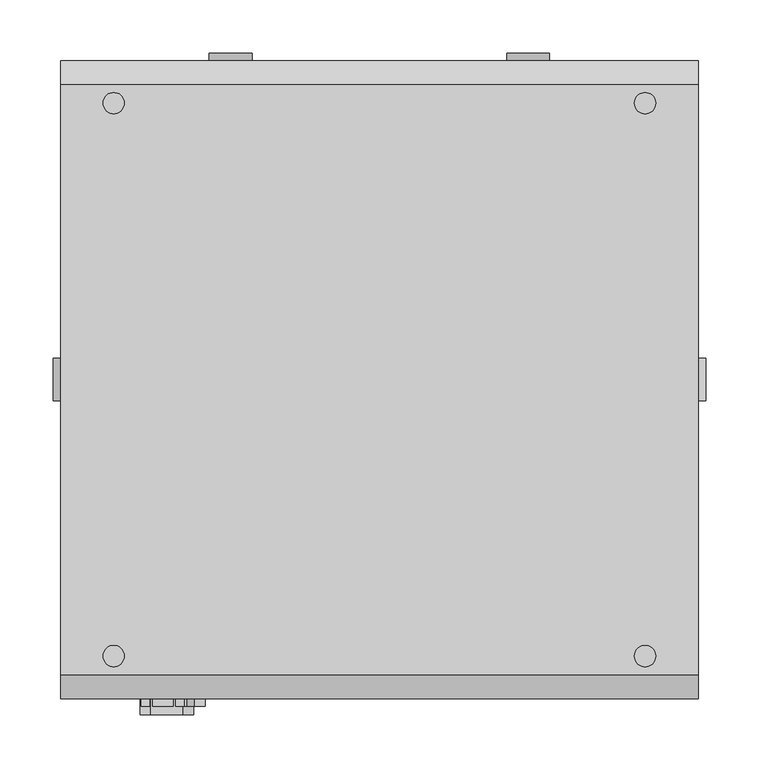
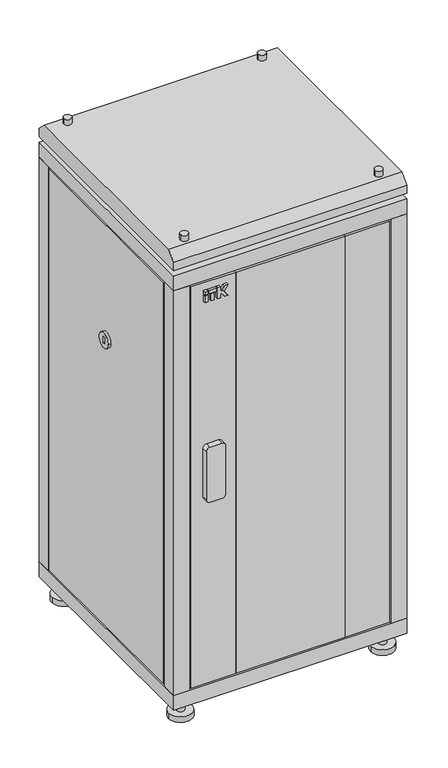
"""IFC4 building model written with IfcOpenShell, lengths in millimetres: proxy geometry, Шкафы ITK серия N_05 : LN05-24U66-G."""

from ifc_helpers import new_model, si_unit, point, frame, frame_2d, origin, origin_with_axes, place, context, project, spatial, polyline, circle_curve, trimmed, segment, composite_curve, outline, extrude, faceted_brep, source, transform, mapped, element, save
from ifc_brep_helpers import plane_surface, cylinder_surface, advanced_brep


def electrical_fixtures_b4728678(model_context):
    return source(origin(), model_context, "Body", "SolidModel", [
        extrude(outline(polyline([(-215.9746193, -307.0), (-224.197592, -307.0), (-224.197592, -300.0), (-215.9746193, -300.0), (-215.9746193, -307.0)])), frame((0.0, 0.0, 1135.0), z_axis=(0.0, 0.0, 1.0), x_axis=(1.0, 0.0, 0.0)), (0.0, 0.0, 1.0), 18.8087618),
        extrude(outline(polyline([(-199.9605777, -307.0), (-207.7053315, -307.0), (-207.7053315, -300.0), (-199.9605777, -300.0), (-199.9605777, -307.0)])), frame((0.0, 0.0, 1135.0), z_axis=(0.0, 0.0, 1.0), x_axis=(1.0, 0.0, 0.0)), (0.0, 0.0, 1.0), 18.8087618),
        extrude(outline(polyline([(-215.9746193, -307.0), (-224.197592, -307.0), (-224.197592, -300.0), (-215.9746193, -300.0), (-215.9746193, -307.0)])), frame((0.0, 0.0, 1156.4305892), z_axis=(0.0, 0.0, 1.0), x_axis=(1.0, 0.0, 0.0)), (0.0, 0.0, 1.0), 7.9794747),
        extrude(outline(polyline([(1135.0, -191.5184175), (1135.0, -183.7669278), (1146.0271455, -183.7669278), (1146.0271455, -180.8031229), (1135.0, -173.6420108), (1135.0, -164.197592), (1149.7278745, -174.8980192), (1164.410064, -164.197592), (1164.410064, -173.6420108), (1153.3829184, -180.8031229), (1153.3829184, -183.7669278), (1164.410064, -183.7669278), (1164.410064, -191.5184175), (1135.0, -191.5184175)])), frame((0.0, -307.0, 0.0), z_axis=(0.0, 1.0, 0.0), x_axis=(0.0, 0.0, 1.0)), (0.0, 0.0, 1.0), 7.0),
        extrude(outline(polyline([(-194.0851324, -307.0), (-213.5807768, -307.0), (-213.5807768, -300.0), (-194.0851324, -300.0), (-194.0851324, -307.0)])), frame((0.0, 0.0, 1156.4305892), z_axis=(0.0, 0.0, 1.0), x_axis=(1.0, 0.0, 0.0)), (0.0, 0.0, 1.0), 7.9794747),
        extrude(outline(composite_curve([segment(polyline([(745.0, -185.0), (745.0, -215.0)]), True, "CONTINUOUS"), segment(trimmed(circle_curve(frame_2d((735.0, -215.0)), 10.0), [point((745.0, -215.0))], [point((735.0, -225.0))], False, "CARTESIAN"), True, "CONTINUOUS"), segment(polyline([(735.0, -225.0), (605.0, -225.0)]), True, "CONTINUOUS"), segment(trimmed(circle_curve(frame_2d((605.0, -215.0)), 10.0), [point((605.0, -225.0))], [point((595.0, -215.0))], False, "CARTESIAN"), True, "CONTINUOUS"), segment(polyline([(595.0, -215.0), (595.0, -185.0)]), True, "CONTINUOUS"), segment(trimmed(circle_curve(frame_2d((605.0, -185.0)), 10.0), [point((595.0, -185.0))], [point((605.0, -175.0))], False, "CARTESIAN"), True, "CONTINUOUS"), segment(polyline([(605.0, -175.0), (735.0, -175.0)]), True, "CONTINUOUS"), segment(trimmed(circle_curve(frame_2d((735.0, -185.0)), 10.0), [point((735.0, -175.0))], [point((745.0, -185.0))], False, "CARTESIAN"), True, "CONTINUOUS")], self_intersect=False)), frame((0.0, -315.0, 0.0), z_axis=(0.0, 1.0, 0.0), x_axis=(0.0, 0.0, 1.0)), (0.0, 0.0, 1.0), 15.0),
        extrude(outline(polyline([(140.0, -280.0), (140.0, -300.0), (-140.0, -300.0), (-140.0, -280.0), (140.0, -280.0)])), frame((0.0, 0.0, 95.0), z_axis=(0.0, 0.0, 1.0), x_axis=(1.0, 0.0, 0.0)), (0.0, 0.0, 1.0), 1090.0),
        extrude(outline(polyline([(255.0, -280.0), (255.0, -300.0), (140.0, -300.0), (140.0, -280.0), (235.0, -280.0), (235.0, -265.0), (245.0, -265.0), (245.0, -280.0), (255.0, -280.0)])), frame((0.0, 0.0, 95.0), z_axis=(0.0, 0.0, 1.0), x_axis=(1.0, 0.0, 0.0)), (0.0, 0.0, 1.0), 1090.0),
        extrude(outline(polyline([(-140.0, -300.0), (-255.0, -300.0), (-255.0, -280.0), (-245.0, -280.0), (-245.0, -265.0), (-235.0, -265.0), (-235.0, -280.0), (-140.0, -280.0), (-140.0, -300.0)])), frame((0.0, 0.0, 95.0), z_axis=(0.0, 0.0, 1.0), x_axis=(1.0, 0.0, 0.0)), (0.0, 0.0, 1.0), 1090.0),
        extrude(outline(composite_curve([segment(trimmed(circle_curve(frame_2d((-260.0, 260.0)), 10.0), [point((-250.0, 260.0))], [point((-270.0, 260.0))], False, "CARTESIAN"), True, "CONTINUOUS"), segment(trimmed(circle_curve(frame_2d((-260.0, 260.0)), 10.0), [point((-270.0, 260.0))], [point((-250.0, 260.0))], False, "CARTESIAN"), True, "CONTINUOUS")], self_intersect=False)), frame((0.0, 0.0, 15.0), z_axis=(0.0, 0.0, 1.0), x_axis=(1.0, 0.0, 0.0)), (0.0, 0.0, 1.0), 35.0),
        extrude(outline(composite_curve([segment(trimmed(circle_curve(frame_2d((260.0, 260.0)), 10.0), [point((270.0, 260.0))], [point((250.0, 260.0))], False, "CARTESIAN"), True, "CONTINUOUS"), segment(trimmed(circle_curve(frame_2d((260.0, 260.0)), 10.0), [point((250.0, 260.0))], [point((270.0, 260.0))], False, "CARTESIAN"), True, "CONTINUOUS")], self_intersect=False)), frame((0.0, 0.0, 15.0), z_axis=(0.0, 0.0, 1.0), x_axis=(1.0, 0.0, 0.0)), (0.0, 0.0, 1.0), 35.0),
        extrude(outline(composite_curve([segment(trimmed(circle_curve(frame_2d((-260.0, -260.0)), 10.0), [point((-250.0, -260.0))], [point((-270.0, -260.0))], False, "CARTESIAN"), True, "CONTINUOUS"), segment(trimmed(circle_curve(frame_2d((-260.0, -260.0)), 10.0), [point((-270.0, -260.0))], [point((-250.0, -260.0))], False, "CARTESIAN"), True, "CONTINUOUS")], self_intersect=False)), frame((0.0, 0.0, 15.0), z_axis=(0.0, 0.0, 1.0), x_axis=(1.0, 0.0, 0.0)), (0.0, 0.0, 1.0), 35.0),
        extrude(outline(composite_curve([segment(trimmed(circle_curve(frame_2d((260.0, -260.0)), 10.0), [point((270.0, -260.0))], [point((250.0, -260.0))], False, "CARTESIAN"), True, "CONTINUOUS"), segment(trimmed(circle_curve(frame_2d((260.0, -260.0)), 10.0), [point((250.0, -260.0))], [point((270.0, -260.0))], False, "CARTESIAN"), True, "CONTINUOUS")], self_intersect=False)), frame((0.0, 0.0, 15.0), z_axis=(0.0, 0.0, 1.0), x_axis=(1.0, 0.0, 0.0)), (0.0, 0.0, 1.0), 35.0),
        extrude(outline(composite_curve([segment(trimmed(circle_curve(frame_2d((-260.0, 260.0)), 30.0), [point((-230.0, 260.0))], [point((-290.0, 260.0))], False, "CARTESIAN"), True, "CONTINUOUS"), segment(trimmed(circle_curve(frame_2d((-260.0, 260.0)), 30.0), [point((-290.0, 260.0))], [point((-230.0, 260.0))], False, "CARTESIAN"), True, "CONTINUOUS")], self_intersect=False)), origin_with_axes(), (0.0, 0.0, 1.0), 15.0),
        extrude(outline(composite_curve([segment(trimmed(circle_curve(frame_2d((260.0, 260.0)), 30.0), [point((290.0, 260.0))], [point((230.0, 260.0))], False, "CARTESIAN"), True, "CONTINUOUS"), segment(trimmed(circle_curve(frame_2d((260.0, 260.0)), 30.0), [point((230.0, 260.0))], [point((290.0, 260.0))], False, "CARTESIAN"), True, "CONTINUOUS")], self_intersect=False)), origin_with_axes(), (0.0, 0.0, 1.0), 15.0),
        extrude(outline(composite_curve([segment(trimmed(circle_curve(frame_2d((-260.0, -260.0)), 30.0), [point((-230.0, -260.0))], [point((-290.0, -260.0))], False, "CARTESIAN"), True, "CONTINUOUS"), segment(trimmed(circle_curve(frame_2d((-260.0, -260.0)), 30.0), [point((-290.0, -260.0))], [point((-230.0, -260.0))], False, "CARTESIAN"), True, "CONTINUOUS")], self_intersect=False)), origin_with_axes(), (0.0, 0.0, 1.0), 15.0),
        extrude(outline(composite_curve([segment(trimmed(circle_curve(frame_2d((260.0, -260.0)), 30.0), [point((290.0, -260.0))], [point((230.0, -260.0))], False, "CARTESIAN"), True, "CONTINUOUS"), segment(trimmed(circle_curve(frame_2d((260.0, -260.0)), 30.0), [point((230.0, -260.0))], [point((290.0, -260.0))], False, "CARTESIAN"), True, "CONTINUOUS")], self_intersect=False)), origin_with_axes(), (0.0, 0.0, 1.0), 15.0),
        advanced_brep(
        [(260.0, 260.0, 1305.0), (240.0, 260.0, 1305.0), (260.0, -260.0, 1305.0), (240.0, -260.0, 1305.0), (-240.0, 260.0, 1305.0), (-260.0, 260.0, 1305.0), (-240.0, -260.0, 1305.0), (-260.0, -260.0, 1305.0), (260.0, 260.0, 1230.0), (240.0, 260.0, 1230.0), (260.0, -260.0, 1230.0), (240.0, -260.0, 1230.0), (-240.0, 260.0, 1230.0), (-260.0, 260.0, 1230.0), (-240.0, -260.0, 1230.0), (-260.0, -260.0, 1230.0), (260.0, 260.0, 1290.0), (240.0, 260.0, 1290.0), (240.0, 260.0, 1245.0), (260.0, 260.0, 1245.0), (260.0, -260.0, 1290.0), (240.0, -260.0, 1290.0), (240.0, -260.0, 1245.0), (260.0, -260.0, 1245.0), (-240.0, 260.0, 1290.0), (-260.0, 260.0, 1290.0), (-260.0, 260.0, 1245.0), (-240.0, 260.0, 1245.0), (-240.0, -260.0, 1290.0), (-260.0, -260.0, 1290.0), (-260.0, -260.0, 1245.0), (-240.0, -260.0, 1245.0), (300.0, 277.5, 1290.0), (300.0, -277.5, 1290.0), (300.0, -300.0, 1267.5), (300.0, -300.0, 1245.0), (300.0, 300.0, 1245.0), (300.0, 300.0, 1267.5), (-300.0, 277.5, 1290.0), (-300.0, 300.0, 1267.5), (-300.0, 300.0, 1245.0), (-300.0, -300.0, 1245.0), (-300.0, -300.0, 1267.5), (-300.0, -277.5, 1290.0)],
        [
            (0, 1, circle_curve(frame((250.0, 260.0, 1305.0), z_axis=(0.0, 0.0, 1.0), x_axis=(-1.0, 0.0, 0.0)), 10.0)),
            (1, 0, circle_curve(frame((250.0, 260.0, 1305.0), z_axis=(0.0, 0.0, 1.0), x_axis=(-1.0, 0.0, 0.0)), 10.0)),
            (2, 3, circle_curve(frame((250.0, -260.0, 1305.0), z_axis=(0.0, 0.0, 1.0), x_axis=(-1.0, 0.0, 0.0)), 10.0)),
            (3, 2, circle_curve(frame((250.0, -260.0, 1305.0), z_axis=(0.0, 0.0, 1.0), x_axis=(-1.0, 0.0, 0.0)), 10.0)),
            (4, 5, circle_curve(frame((-250.0, 260.0, 1305.0), z_axis=(0.0, 0.0, 1.0), x_axis=(-1.0, 0.0, 0.0)), 10.0)),
            (5, 4, circle_curve(frame((-250.0, 260.0, 1305.0), z_axis=(0.0, 0.0, 1.0), x_axis=(-1.0, 0.0, 0.0)), 10.0)),
            (6, 7, circle_curve(frame((-250.0, -260.0, 1305.0), z_axis=(0.0, 0.0, 1.0), x_axis=(-1.0, 0.0, 0.0)), 10.0)),
            (7, 6, circle_curve(frame((-250.0, -260.0, 1305.0), z_axis=(0.0, 0.0, 1.0), x_axis=(-1.0, 0.0, 0.0)), 10.0)),
            (8, 9, circle_curve(frame((250.0, 260.0, 1230.0), z_axis=(0.0, 0.0, -1.0), x_axis=(-1.0, 0.0, 0.0)), 10.0)),
            (9, 8, circle_curve(frame((250.0, 260.0, 1230.0), z_axis=(0.0, 0.0, -1.0), x_axis=(-1.0, 0.0, 0.0)), 10.0)),
            (10, 11, circle_curve(frame((250.0, -260.0, 1230.0), z_axis=(0.0, 0.0, -1.0), x_axis=(-1.0, 0.0, 0.0)), 10.0)),
            (11, 10, circle_curve(frame((250.0, -260.0, 1230.0), z_axis=(0.0, 0.0, -1.0), x_axis=(-1.0, 0.0, 0.0)), 10.0)),
            (12, 13, circle_curve(frame((-250.0, 260.0, 1230.0), z_axis=(0.0, 0.0, -1.0), x_axis=(-1.0, 0.0, 0.0)), 10.0)),
            (13, 12, circle_curve(frame((-250.0, 260.0, 1230.0), z_axis=(0.0, 0.0, -1.0), x_axis=(-1.0, 0.0, 0.0)), 10.0)),
            (14, 15, circle_curve(frame((-250.0, -260.0, 1230.0), z_axis=(0.0, 0.0, -1.0), x_axis=(-1.0, 0.0, 0.0)), 10.0)),
            (15, 14, circle_curve(frame((-250.0, -260.0, 1230.0), z_axis=(0.0, 0.0, -1.0), x_axis=(-1.0, 0.0, 0.0)), 10.0)),
            (0, 16),
            (16, 17, circle_curve(frame((250.0, 260.0, 1290.0), z_axis=(0.0, 0.0, 1.0), x_axis=(-1.0, 0.0, 0.0)), 10.0)),
            (17, 1),
            (9, 18),
            (18, 19, circle_curve(frame((250.0, 260.0, 1245.0), z_axis=(0.0, 0.0, -1.0), x_axis=(-1.0, 0.0, 0.0)), 10.0)),
            (19, 8),
            (17, 16, circle_curve(frame((250.0, 260.0, 1290.0), z_axis=(0.0, 0.0, 1.0), x_axis=(-1.0, 0.0, 0.0)), 10.0)),
            (19, 18, circle_curve(frame((250.0, 260.0, 1245.0), z_axis=(0.0, 0.0, -1.0), x_axis=(-1.0, 0.0, 0.0)), 10.0)),
            (2, 20),
            (20, 21, circle_curve(frame((250.0, -260.0, 1290.0), z_axis=(0.0, 0.0, 1.0), x_axis=(-1.0, 0.0, 0.0)), 10.0)),
            (21, 3),
            (11, 22),
            (22, 23, circle_curve(frame((250.0, -260.0, 1245.0), z_axis=(0.0, 0.0, -1.0), x_axis=(-1.0, 0.0, 0.0)), 10.0)),
            (23, 10),
            (21, 20, circle_curve(frame((250.0, -260.0, 1290.0), z_axis=(0.0, 0.0, 1.0), x_axis=(-1.0, 0.0, 0.0)), 10.0)),
            (23, 22, circle_curve(frame((250.0, -260.0, 1245.0), z_axis=(0.0, 0.0, -1.0), x_axis=(-1.0, 0.0, 0.0)), 10.0)),
            (4, 24),
            (24, 25, circle_curve(frame((-250.0, 260.0, 1290.0), z_axis=(0.0, 0.0, 1.0), x_axis=(-1.0, 0.0, 0.0)), 10.0)),
            (25, 5),
            (13, 26),
            (26, 27, circle_curve(frame((-250.0, 260.0, 1245.0), z_axis=(0.0, 0.0, -1.0), x_axis=(-1.0, 0.0, 0.0)), 10.0)),
            (27, 12),
            (25, 24, circle_curve(frame((-250.0, 260.0, 1290.0), z_axis=(0.0, 0.0, 1.0), x_axis=(-1.0, 0.0, 0.0)), 10.0)),
            (27, 26, circle_curve(frame((-250.0, 260.0, 1245.0), z_axis=(0.0, 0.0, -1.0), x_axis=(-1.0, 0.0, 0.0)), 10.0)),
            (6, 28),
            (28, 29, circle_curve(frame((-250.0, -260.0, 1290.0), z_axis=(0.0, 0.0, 1.0), x_axis=(-1.0, 0.0, 0.0)), 10.0)),
            (29, 7),
            (15, 30),
            (30, 31, circle_curve(frame((-250.0, -260.0, 1245.0), z_axis=(0.0, 0.0, -1.0), x_axis=(-1.0, 0.0, 0.0)), 10.0)),
            (31, 14),
            (29, 28, circle_curve(frame((-250.0, -260.0, 1290.0), z_axis=(0.0, 0.0, 1.0), x_axis=(-1.0, 0.0, 0.0)), 10.0)),
            (31, 30, circle_curve(frame((-250.0, -260.0, 1245.0), z_axis=(0.0, 0.0, -1.0), x_axis=(-1.0, 0.0, 0.0)), 10.0)),
            (32, 33),
            (33, 34),
            (34, 35),
            (35, 36),
            (36, 37),
            (37, 32),
            (38, 39),
            (39, 40),
            (40, 41),
            (41, 42),
            (42, 43),
            (43, 38),
            (32, 38),
            (43, 33),
            (42, 34),
            (41, 35),
            (40, 36),
            (39, 37),
        ],
        [
            plane_surface(frame((240.0, 260.0, 1305.0), z_axis=(0.0, 0.0, 1.0), x_axis=(0.0, -1.0, 0.0))),
            plane_surface(frame((240.0, 260.0, 1230.0), z_axis=(0.0, 0.0, -1.0), x_axis=(0.0, 1.0, 0.0))),
            cylinder_surface(frame((250.0, 260.0, 1230.0), z_axis=(0.0, 0.0, 1.0), x_axis=(-1.0, 0.0, 0.0)), 10.0),
            cylinder_surface(frame((250.0, -260.0, 1710.0), z_axis=(0.0, 0.0, 1.0), x_axis=(-1.0, 0.0, 0.0)), 10.0),
            cylinder_surface(frame((-250.0, 260.0, 1710.0), z_axis=(0.0, 0.0, 1.0), x_axis=(-1.0, 0.0, 0.0)), 10.0),
            cylinder_surface(frame((-250.0, -260.0, 1710.0), z_axis=(0.0, 0.0, 1.0), x_axis=(-1.0, 0.0, 0.0)), 10.0),
            plane_surface(frame((300.0, -277.5, 1290.0), z_axis=(1.0, 0.0, 0.0), x_axis=(0.0, -1.0, 0.0))),
            plane_surface(frame((-300.0, -277.5, 1290.0), z_axis=(-1.0, 0.0, 0.0), x_axis=(0.0, 1.0, 0.0))),
            plane_surface(frame((300.0, 277.5, 1290.0), z_axis=(0.0, 0.0, 1.0), x_axis=(-1.0, 0.0, 0.0))),
            plane_surface(frame((300.0, -277.5, 1290.0), z_axis=(0.0, -0.7071067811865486, 0.7071067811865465), x_axis=(-1.0, 0.0, 0.0))),
            plane_surface(frame((300.0, -300.0, 1267.5), z_axis=(0.0, -1.0, 0.0), x_axis=(-1.0, 0.0, 0.0))),
            plane_surface(frame((300.0, -300.0, 1245.0), z_axis=(0.0, 0.0, -1.0), x_axis=(-1.0, 0.0, 0.0))),
            plane_surface(frame((300.0, 300.0, 1245.0), z_axis=(0.0, 1.0, 0.0), x_axis=(-1.0, 0.0, 0.0))),
            plane_surface(frame((300.0, 300.0, 1267.5), z_axis=(0.0, 0.7071067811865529, 0.7071067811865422), x_axis=(-1.0, 0.0, 0.0))),
        ],
        [
            (0, [[1, 2]]),
            (0, [[3, 4]]),
            (0, [[5, 6]]),
            (0, [[7, 8]]),
            (1, [[9, 10]]),
            (1, [[11, 12]]),
            (1, [[13, 14]]),
            (1, [[15, 16]]),
            (2, [[-1, 17, 18, 19]]),
            (2, [[-10, 20, 21, 22]]),
            (2, [[-2, -19, 23, -17]]),
            (2, [[-9, -22, 24, -20]]),
            (3, [[-3, 25, 26, 27]]),
            (3, [[-12, 28, 29, 30]]),
            (3, [[-4, -27, 31, -25]]),
            (3, [[-11, -30, 32, -28]]),
            (4, [[-5, 33, 34, 35]]),
            (4, [[-14, 36, 37, 38]]),
            (4, [[-6, -35, 39, -33]]),
            (4, [[-13, -38, 40, -36]]),
            (5, [[-7, 41, 42, 43]]),
            (5, [[-16, 44, 45, 46]]),
            (5, [[-8, -43, 47, -41]]),
            (5, [[-15, -46, 48, -44]]),
            (6, [[49, 50, 51, 52, 53, 54]]),
            (7, [[55, 56, 57, 58, 59, 60]]),
            (8, [[-49, 61, -60, 62], [-18, -23], [-26, -31], [-34, -39], [-42, -47]]),
            (9, [[-50, -62, -59, 63]]),
            (10, [[-51, -63, -58, 64]]),
            (11, [[-52, -64, -57, 65], [-21, -24], [-29, -32], [-37, -40], [-45, -48]]),
            (12, [[-53, -65, -56, 66]]),
            (13, [[-54, -66, -55, -61]]),
        ],
    ),
        extrude(outline(polyline([(260.0, 260.0), (260.0, 245.0), (290.0, 245.0), (290.0, -245.0), (260.0, -245.0), (260.0, -260.0), (245.0, -260.0), (245.0, -280.0), (-245.0, -280.0), (-245.0, -260.0), (-260.0, -260.0), (-260.0, -245.0), (-290.0, -245.0), (-290.0, 245.0), (-260.0, 245.0), (-260.0, 260.0), (-245.0, 260.0), (-245.0, 290.0), (245.0, 290.0), (245.0, 260.0), (260.0, 260.0)])), frame((0.0, 0.0, 90.0), z_axis=(0.0, 0.0, 1.0), x_axis=(1.0, 0.0, 0.0)), (0.0, 0.0, 1.0), 5.0),
        extrude(outline(polyline([(260.0, 260.0), (260.0, 245.0), (290.0, 245.0), (290.0, -245.0), (260.0, -245.0), (260.0, -260.0), (245.0, -260.0), (245.0, -280.0), (-245.0, -280.0), (-245.0, -260.0), (-260.0, -260.0), (-260.0, -245.0), (-290.0, -245.0), (-290.0, 245.0), (-260.0, 245.0), (-260.0, 260.0), (-245.0, 260.0), (-245.0, 290.0), (245.0, 290.0), (245.0, 260.0), (260.0, 260.0)])), frame((0.0, 0.0, 1185.0), z_axis=(0.0, 0.0, 1.0), x_axis=(1.0, 0.0, 0.0)), (0.0, 0.0, 1.0), 5.0),
        extrude(outline(polyline([(300.0, -300.0), (-300.0, -300.0), (-300.0, 300.0), (300.0, 300.0), (300.0, -300.0)])), frame((0.0, 0.0, 1190.0), z_axis=(0.0, 0.0, 1.0), x_axis=(1.0, 0.0, 0.0)), (0.0, 0.0, 1.0), 40.0),
        extrude(outline(polyline([(300.0, -300.0), (-300.0, -300.0), (-300.0, 300.0), (300.0, 300.0), (300.0, -300.0)])), frame((0.0, 0.0, 50.0), z_axis=(0.0, 0.0, 1.0), x_axis=(1.0, 0.0, 0.0)), (0.0, 0.0, 1.0), 40.0),
        extrude(outline(composite_curve([segment(trimmed(circle_curve(frame_2d((640.0, 140.0)), 20.0), [point((640.0, 160.0))], [point((640.0, 120.0))], False, "CARTESIAN"), True, "CONTINUOUS"), segment(trimmed(circle_curve(frame_2d((640.0, 140.0)), 20.0), [point((640.0, 120.0))], [point((640.0, 160.0))], False, "CARTESIAN"), True, "CONTINUOUS")], self_intersect=False), holes=[polyline([(631.7814397, 137.0), (648.2185603, 137.0), (648.2185603, 143.0), (631.7814397, 143.0), (631.7814397, 137.0)])]), frame((0.0, 300.0, 0.0), z_axis=(0.0, 1.0, 0.0), x_axis=(0.0, 0.0, 1.0)), (0.0, 0.0, 1.0), 7.0),
        extrude(outline(composite_curve([segment(trimmed(circle_curve(frame_2d((640.0, -140.0)), 20.0), [point((640.0, -120.0))], [point((640.0, -160.0))], False, "CARTESIAN"), True, "CONTINUOUS"), segment(trimmed(circle_curve(frame_2d((640.0, -140.0)), 20.0), [point((640.0, -160.0))], [point((640.0, -120.0))], False, "CARTESIAN"), True, "CONTINUOUS")], self_intersect=False), holes=[polyline([(631.7814397, -143.0), (648.2185603, -143.0), (648.2185603, -137.0), (631.7814397, -137.0), (631.7814397, -143.0)])]), frame((0.0, 300.0, 0.0), z_axis=(0.0, 1.0, 0.0), x_axis=(0.0, 0.0, 1.0)), (0.0, 0.0, 1.0), 7.0),
        faceted_brep([(255.0, 300.0, 1185.0), (-255.0, 300.0, 1185.0), (-255.0, 270.0, 1185.0), (-245.0, 270.0, 1185.0), (-245.0, 290.0, 1185.0), (245.0, 290.0, 1185.0), (245.0, 270.0, 1185.0), (255.0, 270.0, 1185.0), (255.0, 300.0, 95.0), (255.0, 270.0, 95.0), (245.0, 270.0, 95.0), (245.0, 290.0, 95.0), (-245.0, 290.0, 95.0), (-245.0, 270.0, 95.0), (-255.0, 270.0, 95.0), (-255.0, 300.0, 95.0), (255.0, 300.0, 1012.5265979), (-255.0, 300.0, 1012.5265979), (175.0, 300.0, 1060.0), (175.0, 300.0, 1140.0), (-175.0, 300.0, 1140.0), (-175.0, 300.0, 1060.0), (-255.0, 300.0, 267.4734021), (255.0, 300.0, 267.4734021), (175.0, 300.0, 220.0), (-175.0, 300.0, 220.0), (-175.0, 300.0, 140.0), (175.0, 300.0, 140.0), (255.0, 300.0, 1007.4734021), (255.0, 300.0, 272.5265979), (-255.0, 300.0, 272.5265979), (-255.0, 300.0, 1007.4734021), (-170.0, 300.0, 215.0), (170.0, 300.0, 215.0), (170.0, 300.0, 145.0), (-170.0, 300.0, 145.0), (-170.0, 300.0, 1065.0), (-170.0, 300.0, 1135.0), (170.0, 300.0, 1135.0), (170.0, 300.0, 1065.0), (-255.0, 293.0, 1012.5265979), (-255.0, 293.0, 1007.4734021), (-255.0, 293.0, 272.5265979), (-255.0, 293.0, 267.4734021), (255.0, 293.0, 267.4734021), (255.0, 293.0, 272.5265979), (255.0, 293.0, 1007.4734021), (255.0, 293.0, 1012.5265979), (175.0, 293.0, 220.0), (175.0, 293.0, 140.0), (-175.0, 293.0, 140.0), (-175.0, 293.0, 220.0), (-170.0, 293.0, 215.0), (-170.0, 293.0, 145.0), (170.0, 293.0, 145.0), (170.0, 293.0, 215.0), (175.0, 293.0, 1060.0), (-175.0, 293.0, 1060.0), (-175.0, 293.0, 1140.0), (175.0, 293.0, 1140.0), (-170.0, 293.0, 1065.0), (170.0, 293.0, 1065.0), (170.0, 293.0, 1135.0), (-170.0, 293.0, 1135.0)], [[[0, 1, 2, 3, 4, 5, 6, 7]], [[8, 9, 10, 11, 12, 13, 14, 15]], [[1, 0, 16, 17], [18, 19, 20, 21]], [[8, 15, 22, 23], [24, 25, 26, 27]], [[28, 29, 30, 31]], [[32, 33, 34, 35]], [[36, 37, 38, 39]], [[2, 1, 17, 40, 41, 31, 30, 42, 43, 22, 15, 14]], [[3, 2, 14, 13]], [[4, 3, 13, 12]], [[5, 4, 12, 11]], [[6, 5, 11, 10]], [[7, 6, 10, 9]], [[0, 7, 9, 8, 23, 44, 45, 29, 28, 46, 47, 16]], [[44, 43, 42, 45]], [[48, 49, 50, 51], [52, 53, 54, 55]], [[46, 41, 40, 47]], [[56, 57, 58, 59], [60, 61, 62, 63]], [[45, 42, 30, 29]], [[43, 44, 23, 22]], [[48, 51, 25, 24]], [[51, 50, 26, 25]], [[50, 49, 27, 26]], [[49, 48, 24, 27]], [[52, 55, 33, 32]], [[55, 54, 34, 33]], [[54, 53, 35, 34]], [[53, 52, 32, 35]], [[47, 40, 17, 16]], [[41, 46, 28, 31]], [[56, 59, 19, 18]], [[59, 58, 20, 19]], [[58, 57, 21, 20]], [[57, 56, 18, 21]], [[60, 63, 37, 36]], [[63, 62, 38, 37]], [[62, 61, 39, 38]], [[61, 60, 36, 39]]]),
        extrude(outline(composite_curve([segment(trimmed(circle_curve(frame_2d((0.0, 876.6666667)), 20.0), [point((-20.0, 876.6666667))], [point((20.0, 876.6666667))], False, "CARTESIAN"), True, "CONTINUOUS"), segment(trimmed(circle_curve(frame_2d((0.0, 876.6666667)), 20.0), [point((20.0, 876.6666667))], [point((-20.0, 876.6666667))], False, "CARTESIAN"), True, "CONTINUOUS")], self_intersect=False), holes=[polyline([(3.0, 868.4481063), (3.0, 884.885227), (-3.0, 884.885227), (-3.0, 868.4481063), (3.0, 868.4481063)])]), frame((300.0, 0.0, 0.0), z_axis=(1.0, 0.0, 0.0), x_axis=(0.0, 1.0, 0.0)), (0.0, 0.0, 1.0), 7.0),
        extrude(outline(composite_curve([segment(trimmed(circle_curve(frame_2d((0.0, 876.6666667)), 20.0), [point((20.0, 876.6666667))], [point((-20.0, 876.6666667))], False, "CARTESIAN"), True, "CONTINUOUS"), segment(trimmed(circle_curve(frame_2d((0.0, 876.6666667)), 20.0), [point((-20.0, 876.6666667))], [point((20.0, 876.6666667))], False, "CARTESIAN"), True, "CONTINUOUS")], self_intersect=False), holes=[polyline([(-3.0, 868.4481063), (3.0, 868.4481063), (3.0, 884.885227), (-3.0, 884.885227), (-3.0, 868.4481063)])]), frame((-307.0, 0.0, 0.0), z_axis=(1.0, 0.0, 0.0), x_axis=(0.0, 1.0, 0.0)), (0.0, 0.0, 1.0), 7.0),
        extrude(outline(polyline([(-270.0, 255.0), (-270.0, 245.0), (-289.9803177, 245.0), (-289.9803177, -245.0), (-269.9803177, -245.0), (-269.9803177, -255.0), (-300.0, -255.0), (-300.0, 255.0), (-270.0, 255.0)])), frame((0.0, 0.0, 95.0), z_axis=(0.0, 0.0, 1.0), x_axis=(1.0, 0.0, 0.0)), (0.0, 0.0, 1.0), 1090.0),
        extrude(outline(polyline([(269.9803177, 255.0), (300.0, 255.0), (300.0, -255.0), (269.9803177, -255.0), (269.9803177, -245.0), (289.9803177, -245.0), (289.9803177, 245.0), (269.9803177, 245.0), (269.9803177, 255.0)])), frame((0.0, 0.0, 95.0), z_axis=(0.0, 0.0, 1.0), x_axis=(1.0, 0.0, 0.0)), (0.0, 0.0, 1.0), 1090.0),
        extrude(outline(polyline([(-270.0, -260.0), (-270.0, -245.0), (-260.0, -245.0), (-260.0, -260.0), (-245.0, -260.0), (-245.0, -280.0), (-260.0, -280.0), (-260.0, -300.0), (-300.0, -300.0), (-300.0, -260.0), (-270.0, -260.0)]), holes=[polyline([(-267.0, -263.0), (-297.0, -263.0), (-297.0, -297.0), (-263.0, -297.0), (-263.0, -277.0), (-248.0, -277.0), (-248.0, -263.0), (-263.0, -263.0), (-263.0, -248.0), (-267.0, -248.0), (-267.0, -263.0)])]), frame((0.0, 0.0, 90.0), z_axis=(0.0, 0.0, 1.0), x_axis=(1.0, 0.0, 0.0)), (0.0, 0.0, 1.0), 1100.0),
        extrude(outline(polyline([(270.0, -260.0), (300.0, -260.0), (300.0, -300.0), (260.0, -300.0), (260.0, -280.0), (245.0, -280.0), (245.0, -260.0), (260.0, -260.0), (260.0, -245.0), (270.0, -245.0), (270.0, -260.0)]), holes=[polyline([(297.0, -297.0), (297.0, -263.0), (267.0, -263.0), (267.0, -248.0), (263.0, -248.0), (263.0, -263.0), (248.0, -263.0), (248.0, -277.0), (263.0, -277.0), (263.0, -297.0), (297.0, -297.0)])]), frame((0.0, 0.0, 90.0), z_axis=(0.0, 0.0, 1.0), x_axis=(1.0, 0.0, 0.0)), (0.0, 0.0, 1.0), 1100.0),
        extrude(outline(polyline([(270.0, 260.0), (270.0, 245.0), (260.0, 245.0), (260.0, 260.0), (245.0, 260.0), (245.0, 270.0), (260.0, 270.0), (260.0, 300.0), (300.0, 300.0), (300.0, 260.0), (270.0, 260.0)]), holes=[polyline([(297.0, 263.0), (297.0, 297.0), (263.0, 297.0), (263.0, 267.0), (248.0, 267.0), (248.0, 263.0), (263.0, 263.0), (263.0, 248.0), (267.0, 248.0), (267.0, 263.0), (297.0, 263.0)])]), frame((0.0, 0.0, 90.0), z_axis=(0.0, 0.0, 1.0), x_axis=(1.0, 0.0, 0.0)), (0.0, 0.0, 1.0), 1100.0),
        extrude(outline(polyline([(-270.0, 260.0), (-300.0, 260.0), (-300.0, 300.0), (-260.0, 300.0), (-260.0, 270.0), (-245.0, 270.0), (-245.0, 260.0), (-260.0, 260.0), (-260.0, 245.0), (-270.0, 245.0), (-270.0, 260.0)]), holes=[polyline([(-297.0, 297.0), (-297.0, 263.0), (-267.0, 263.0), (-267.0, 248.0), (-263.0, 248.0), (-263.0, 263.0), (-248.0, 263.0), (-248.0, 267.0), (-263.0, 267.0), (-263.0, 297.0), (-297.0, 297.0)])]), frame((0.0, 0.0, 90.0), z_axis=(0.0, 0.0, 1.0), x_axis=(1.0, 0.0, 0.0)), (0.0, 0.0, 1.0), 1100.0),
    ])


if __name__ == "__main__":
    model = new_model("IFC4")
    model_context = context("Model", 3, world=origin())
    ifc_project = project(units=[si_unit("LENGTHUNIT", "METRE", prefix="MILLI")], contexts=[model_context])
    site = spatial("IfcSite", under=ifc_project)
    building = spatial("IfcBuilding", under=site)
    placement = place(None, origin())
    electrical_fixtures_shape = electrical_fixtures_b4728678(model_context)
    element("IfcBuildingElementProxy", 1, Name="Шкафы ITK серия N_05 : LN05-24U66-G", ObjectType="Шкафы ITK серия N_05 : LN05-24U66-G", at=placement, inside=building, context=model_context, shape_type="MappedRepresentation", body=[
        mapped(electrical_fixtures_shape, transform((0.0, 0.0, 0.0), x_axis=(1.0, 0.0, 0.0), y_axis=(0.0, 1.0, 0.0), z_axis=(0.0, 0.0, 1.0))),
    ])
    save(model, "model.ifc")
